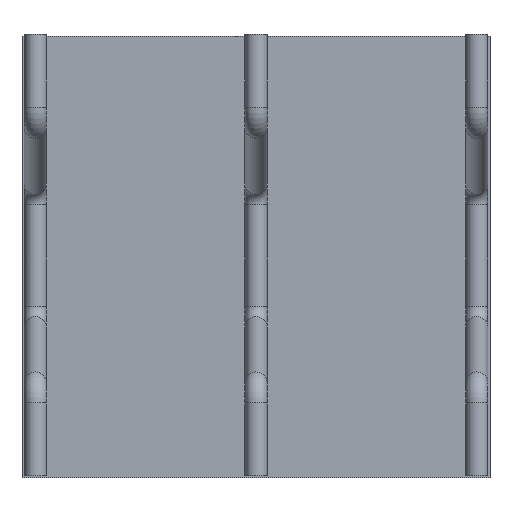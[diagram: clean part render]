
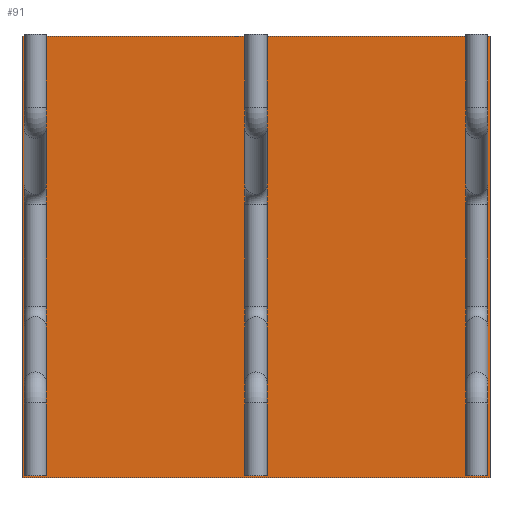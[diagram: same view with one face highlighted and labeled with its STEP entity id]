
A CAD part, top view. The second image highlights one B-rep face of the part: STEP entity #91.
In plain terms, the highlighted planar face has unit normal (0, 0, 1).
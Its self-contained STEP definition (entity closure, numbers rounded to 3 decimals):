
#52=CARTESIAN_POINT('Axis2P3D Location',(0.,0.,0.)) ;
#57=CARTESIAN_POINT('Line Origine',(0.,500.,0.)) ;
#61=CARTESIAN_POINT('Vertex',(530.,500.,0.)) ;
#63=CARTESIAN_POINT('Vertex',(-530.,500.,0.)) ;
#66=CARTESIAN_POINT('Line Origine',(-530.,0.,0.)) ;
#70=CARTESIAN_POINT('Vertex',(-530.,-500.,0.)) ;
#73=CARTESIAN_POINT('Line Origine',(0.,-500.,0.)) ;
#77=CARTESIAN_POINT('Vertex',(530.,-500.,0.)) ;
#80=CARTESIAN_POINT('Line Origine',(530.,0.,0.)) ;
#53=DIRECTION('Axis2P3D Direction',(0.,0.,1.)) ;
#54=DIRECTION('Axis2P3D XDirection',(1.,0.,0.)) ;
#58=DIRECTION('Vector Direction',(1.,0.,0.)) ;
#67=DIRECTION('Vector Direction',(0.,1.,0.)) ;
#74=DIRECTION('Vector Direction',(-1.,0.,0.)) ;
#81=DIRECTION('Vector Direction',(0.,-1.,0.)) ;
#55=AXIS2_PLACEMENT_3D('Plane Axis2P3D',#52,#53,#54) ;
#86=ORIENTED_EDGE('',*,*,#65,.T.) ;
#87=ORIENTED_EDGE('',*,*,#72,.T.) ;
#88=ORIENTED_EDGE('',*,*,#79,.T.) ;
#89=ORIENTED_EDGE('',*,*,#84,.T.) ;
#59=VECTOR('Line Direction',#58,1.) ;
#68=VECTOR('Line Direction',#67,1.) ;
#75=VECTOR('Line Direction',#74,1.) ;
#82=VECTOR('Line Direction',#81,1.) ;
#91=ADVANCED_FACE('Fill.1',(#90),#56,.T.) ;
#65=EDGE_CURVE('',#62,#64,#60,.F.) ;
#72=EDGE_CURVE('',#64,#71,#69,.F.) ;
#79=EDGE_CURVE('',#71,#78,#76,.F.) ;
#84=EDGE_CURVE('',#78,#62,#83,.F.) ;
#85=EDGE_LOOP('',(#86,#87,#88,#89)) ;
#90=FACE_OUTER_BOUND('',#85,.T.) ;
#60=LINE('Line',#57,#59) ;
#69=LINE('Line',#66,#68) ;
#76=LINE('Line',#73,#75) ;
#83=LINE('Line',#80,#82) ;
#56=PLANE('',#55) ;
#62=VERTEX_POINT('',#61) ;
#64=VERTEX_POINT('',#63) ;
#71=VERTEX_POINT('',#70) ;
#78=VERTEX_POINT('',#77) ;
